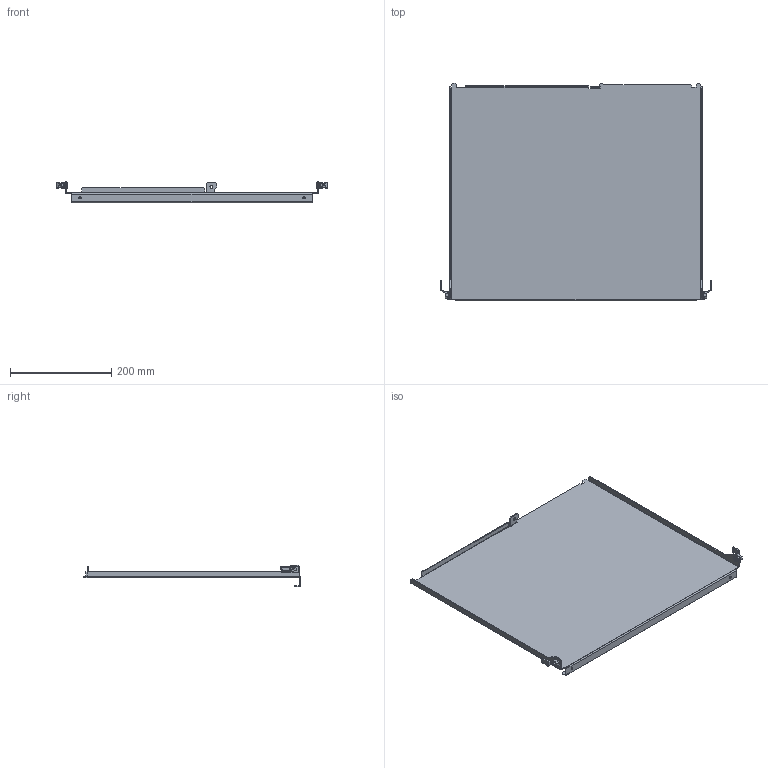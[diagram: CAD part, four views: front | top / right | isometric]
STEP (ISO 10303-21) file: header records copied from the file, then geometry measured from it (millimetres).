
FILE_DESCRIPTION(('CAx-IF Rec.Pracs.---Model Styling and Organization---1.2---2011-12-15','CAx-IF Rec.Pracs.---Geometric and Assembly Validation Properties---4.1---2014-06-16','CAx-IF Rec.Pracs.---PMI Polyline Presentation---2.0---2013-05-24'),'2;1');
FILE_NAME('R5M2WPH.stp','2021-05-05T12:54:47+03:00',(''),(''),'STEP Interface 4.4 by CT CoreTechnologie','3D_Evolution4.4 by CT CoreTechnologie','');
FILE_SCHEMA(('AUTOMOTIVE_DESIGN { 1 0 10303 214 1 1 1 1 }'));
Length unit declared in the file: millimetre
Products named in the file (4): R5M2WPH; M6 x 16-DIN 7991 ISR_thread; AC00C485; RB.1624.00.00.0_-00
Assembly tree (5 placements, depth 2):
  R5M2WPH
    M6 x 16-DIN 7991 ISR_thread  x2
    AC00C485  x2
    RB.1624.00.00.0_-00
Bounding box: 537 x 430 x 43 mm (x, y, z)
Surface area: 479617.3 mm2 (no closed solid volume)
Topology: 0 solids, 7 shells, 286 faces, 722 edges, 444 vertices
Faces by surface type: plane 156, cylinder 94, bspline 36
Entity records: 6448 total; most frequent: CARTESIAN_POINT 1553, ORIENTED_EDGE 986, DIRECTION 963, EDGE_CURVE 493, VECTOR 355, LINE 355, VERTEX_POINT 308, AXIS2_PLACEMENT_3D 304
